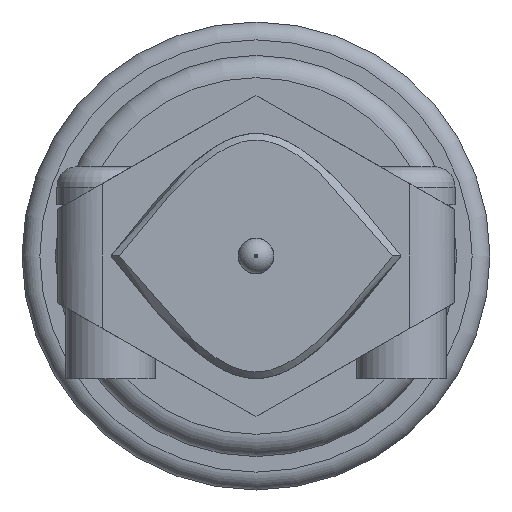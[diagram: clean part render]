
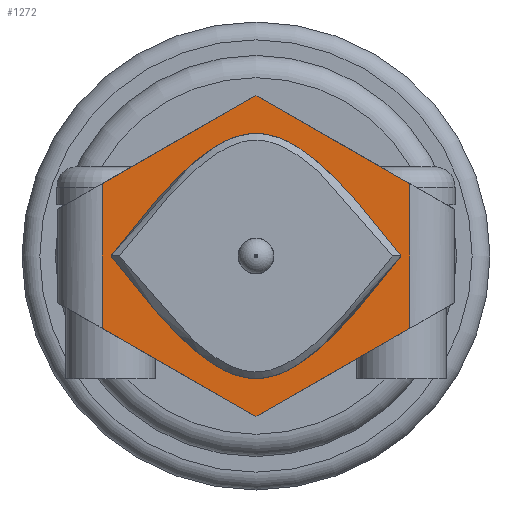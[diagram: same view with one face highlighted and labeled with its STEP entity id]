
A CAD part, left-side view. The second image highlights one B-rep face of the part: STEP entity #1272.
In plain terms, the highlighted planar face has unit normal (-1, 0, 0).
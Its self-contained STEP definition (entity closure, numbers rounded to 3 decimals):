
#79 = VERTEX_POINT ( 'NONE', #1361 ) ;
#129 = CARTESIAN_POINT ( 'NONE',  ( 111.838, 54.406, 65.161 ) ) ;
#159 = VERTEX_POINT ( 'NONE', #1787 ) ;
#204 = ORIENTED_EDGE ( 'NONE', *, *, #1976, .T. ) ;
#224 = VECTOR ( 'NONE', #486, 1000. ) ;
#230 = CARTESIAN_POINT ( 'NONE',  ( 111.838, 54.406, 66.211 ) ) ;
#237 = CARTESIAN_POINT ( 'NONE',  ( 111.838, 60.906, 57.961 ) ) ;
#245 = VERTEX_POINT ( 'NONE', #712 ) ;
#290 = CARTESIAN_POINT ( 'NONE',  ( 111.838, 61.306, 60.061 ) ) ;
#306 = AXIS2_PLACEMENT_3D ( 'NONE', #1401, #1032, #455 ) ;
#376 = CARTESIAN_POINT ( 'NONE',  ( 111.838, 50.073, 55.211 ) ) ;
#383 = EDGE_LOOP ( 'NONE', ( #2104, #1433 ) ) ;
#455 = DIRECTION ( 'NONE',  ( 0., 0., 1. ) ) ;
#486 = DIRECTION ( 'NONE',  ( 0., 0., 1. ) ) ;
#530 = CARTESIAN_POINT ( 'NONE',  ( 111.838, 47.506, 54.714 ) ) ;
#531 = ORIENTED_EDGE ( 'NONE', *, *, #1771, .T. ) ;
#552 = VERTEX_POINT ( 'NONE', #1088 ) ;
#598 = DIRECTION ( 'NONE',  ( 0., 0.868, -0.497 ) ) ;
#654 = VECTOR ( 'NONE', #598, 1000. ) ;
#712 = CARTESIAN_POINT ( 'NONE',  ( 111.838, 61.306, 61.207 ) ) ;
#739 = CARTESIAN_POINT ( 'NONE',  ( 111.838, 63.306, 60.061 ) ) ;
#777 = ORIENTED_EDGE ( 'NONE', *, *, #2360, .T. ) ;
#793 = CARTESIAN_POINT ( 'NONE',  ( 111.838, 58.74, 55.211 ) ) ;
#818 = EDGE_CURVE ( 'NONE', #1511, #79, #1800, .T. ) ;
#837 = CARTESIAN_POINT ( 'NONE',  ( 111.838, 58.74, 60.711 ) ) ;
#870 = DIRECTION ( 'NONE',  ( 0., 0.868, 0.497 ) ) ;
#876 = CARTESIAN_POINT ( 'NONE',  ( 111.838, 45.506, 55.861 ) ) ;
#920 = VECTOR ( 'NONE', #1466, 1000. ) ;
#938 = ORIENTED_EDGE ( 'NONE', *, *, #1611, .T. ) ;
#985 = CARTESIAN_POINT ( 'NONE',  ( 111.838, 63.306, 55.861 ) ) ;
#1032 = DIRECTION ( 'NONE',  ( 1., 0., 0. ) ) ;
#1043 = LINE ( 'NONE', #290, #2391 ) ;
#1088 = CARTESIAN_POINT ( 'NONE',  ( 111.838, 54.406, 50.761 ) ) ;
#1113 = ORIENTED_EDGE ( 'NONE', *, *, #1591, .T. ) ;
#1170 = FACE_OUTER_BOUND ( 'NONE', #1628, .T. ) ;
#1175 = LINE ( 'NONE', #1570, #224 ) ;
#1197 = PLANE ( 'NONE',  #306 ) ;
#1263 = VERTEX_POINT ( 'NONE', #129 ) ;
#1272 = ADVANCED_FACE ( 'NONE', ( #1170, #1564 ), #1197, .F. ) ;
#1310 = CARTESIAN_POINT ( 'NONE',  ( 111.838, 50.073, 60.711 ) ) ;
#1320 = DIRECTION ( 'NONE',  ( 0., -0.868, -0.497 ) ) ;
#1361 = CARTESIAN_POINT ( 'NONE',  ( 111.838, 60.906, 57.961 ) ) ;
#1401 = CARTESIAN_POINT ( 'NONE',  ( 111.838, 63.306, 60.061 ) ) ;
#1410 = B_SPLINE_CURVE_WITH_KNOTS ( 'NONE', 3,
 ( #237, #793, #2061, #376, #2207 ),
 .UNSPECIFIED., .F., .F.,
 ( 4, 1, 4 ),
 ( 0., 0.5, 1. ),
 .UNSPECIFIED. ) ;
#1433 = ORIENTED_EDGE ( 'NONE', *, *, #818, .F. ) ;
#1466 = DIRECTION ( 'NONE',  ( 0., -0.868, 0.497 ) ) ;
#1511 = VERTEX_POINT ( 'NONE', #1810 ) ;
#1564 = FACE_BOUND ( 'NONE', #383, .T. ) ;
#1570 = CARTESIAN_POINT ( 'NONE',  ( 111.838, 47.506, 60.061 ) ) ;
#1591 = EDGE_CURVE ( 'NONE', #245, #1739, #1043, .T. ) ;
#1611 = EDGE_CURVE ( 'NONE', #552, #2368, #2335, .T. ) ;
#1618 = EDGE_CURVE ( 'NONE', #79, #1511, #1410, .T. ) ;
#1628 = EDGE_LOOP ( 'NONE', ( #938, #531, #777, #2008, #1113, #204 ) ) ;
#1658 = VECTOR ( 'NONE', #870, 1000. ) ;
#1683 = EDGE_CURVE ( 'NONE', #1263, #245, #2395, .T. ) ;
#1739 = VERTEX_POINT ( 'NONE', #2010 ) ;
#1770 = DIRECTION ( 'NONE',  ( 0., 0., -1. ) ) ;
#1771 = EDGE_CURVE ( 'NONE', #2368, #159, #1175, .T. ) ;
#1787 = CARTESIAN_POINT ( 'NONE',  ( 111.838, 47.506, 61.207 ) ) ;
#1800 = B_SPLINE_CURVE_WITH_KNOTS ( 'NONE', 3,
 ( #2231, #1310, #230, #837, #1913 ),
 .UNSPECIFIED., .F., .F.,
 ( 4, 1, 4 ),
 ( 0., 0.5, 1. ),
 .UNSPECIFIED. ) ;
#1810 = CARTESIAN_POINT ( 'NONE',  ( 111.838, 47.906, 57.961 ) ) ;
#1913 = CARTESIAN_POINT ( 'NONE',  ( 111.838, 60.906, 57.961 ) ) ;
#1976 = EDGE_CURVE ( 'NONE', #1739, #552, #2262, .T. ) ;
#2008 = ORIENTED_EDGE ( 'NONE', *, *, #1683, .T. ) ;
#2010 = CARTESIAN_POINT ( 'NONE',  ( 111.838, 61.306, 54.714 ) ) ;
#2061 = CARTESIAN_POINT ( 'NONE',  ( 111.838, 54.406, 49.711 ) ) ;
#2104 = ORIENTED_EDGE ( 'NONE', *, *, #1618, .F. ) ;
#2135 = VECTOR ( 'NONE', #1320, 1000. ) ;
#2181 = CARTESIAN_POINT ( 'NONE',  ( 111.838, 45.506, 60.061 ) ) ;
#2191 = LINE ( 'NONE', #2181, #1658 ) ;
#2207 = CARTESIAN_POINT ( 'NONE',  ( 111.838, 47.906, 57.961 ) ) ;
#2231 = CARTESIAN_POINT ( 'NONE',  ( 111.838, 47.906, 57.961 ) ) ;
#2262 = LINE ( 'NONE', #985, #2135 ) ;
#2335 = LINE ( 'NONE', #876, #920 ) ;
#2360 = EDGE_CURVE ( 'NONE', #159, #1263, #2191, .T. ) ;
#2368 = VERTEX_POINT ( 'NONE', #530 ) ;
#2391 = VECTOR ( 'NONE', #1770, 1000. ) ;
#2395 = LINE ( 'NONE', #739, #654 ) ;
